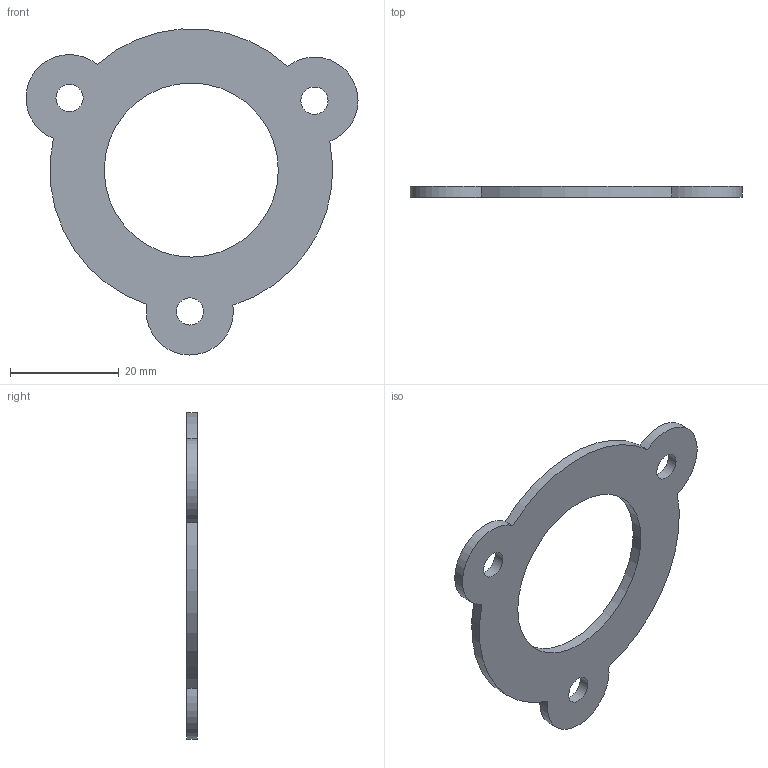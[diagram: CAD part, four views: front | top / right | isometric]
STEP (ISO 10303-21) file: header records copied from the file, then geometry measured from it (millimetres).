
FILE_DESCRIPTION( ( 'Unknown' ), '1' );
FILE_NAME( 'F:/navkite transat/construction/2016/3D ET ASSEMBLAGES/AMI/AMI 10.stp', 'Unknown', ( 'GMA' ), ( 'Unknown' ), 'XStep 1.0', 'Unknown', ' ' );
FILE_SCHEMA( ( 'automotive_design' ) );
Length unit declared in the file: millimetre
Products named in the file (1): 1
Bounding box: 61.03 x 2 x 59.93 mm (x, y, z)
Volume: 3163.8 mm3; surface area: 3855.1 mm2
Topology: 1 solids, 1 shells, 12 faces, 30 edges, 20 vertices
Faces by surface type: cylinder 10, plane 2
Full cylindrical faces by diameter (mm): 5 x3, 32 x1
Entity records: 482 total; most frequent: DIRECTION 72, CARTESIAN_POINT 59, ORIENTED_EDGE 52, AXIS2_PLACEMENT_3D 33, EDGE_CURVE 26, EDGE_LOOP 24, VERTEX_POINT 20, CIRCLE 20
